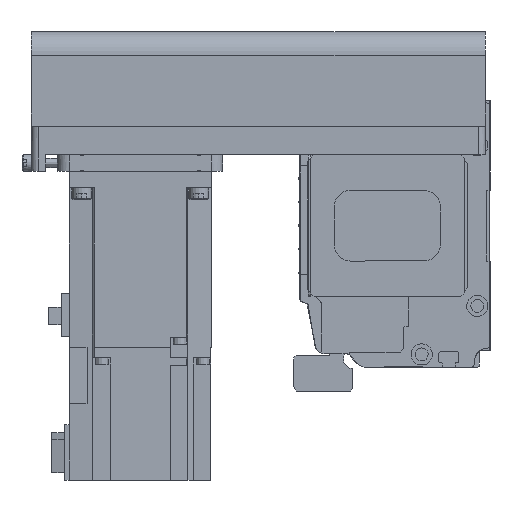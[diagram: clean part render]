
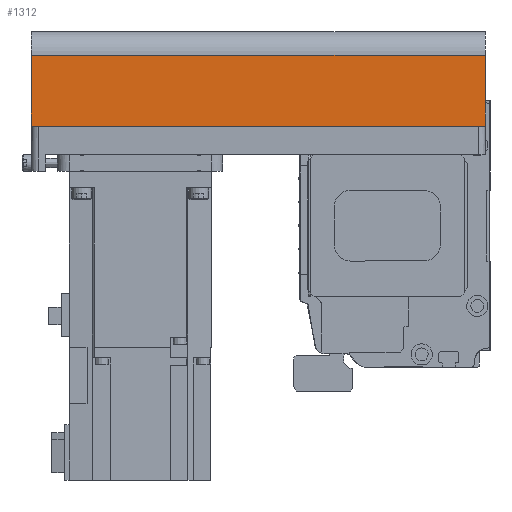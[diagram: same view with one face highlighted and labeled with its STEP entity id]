
A CAD part, left-side view. The second image highlights one B-rep face of the part: STEP entity #1312.
In plain terms, the highlighted planar face has unit normal (-1, 0, 0) as drawn and (0, 1, 0) by its records, which use the part's own axes.
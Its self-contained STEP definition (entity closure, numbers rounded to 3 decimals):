
#1312 = ADVANCED_FACE( '', ( #3176 ), #3177, .T. );
#3176 = FACE_OUTER_BOUND( '', #5784, .T. );
#3177 = PLANE( '', #5785 );
#5784 = EDGE_LOOP( '', ( #9348, #9349, #9350, #9351 ) );
#5785 = AXIS2_PLACEMENT_3D( '', #9352, #9353, #9354 );
#9348 = ORIENTED_EDGE( '', *, *, #15411, .F. );
#9349 = ORIENTED_EDGE( '', *, *, #15029, .F. );
#9350 = ORIENTED_EDGE( '', *, *, #15412, .T. );
#9351 = ORIENTED_EDGE( '', *, *, #15413, .T. );
#9352 = CARTESIAN_POINT( '', ( -192., 40., -42. ) );
#9353 = DIRECTION( '', ( 0., 1., 0. ) );
#9354 = DIRECTION( '', ( 0., 0., 1. ) );
#15029 = EDGE_CURVE( '', #18032, #18030, #18034, .T. );
#15411 = EDGE_CURVE( '', #18030, #17416, #18654, .T. );
#15412 = EDGE_CURVE( '', #18032, #18655, #18656, .T. );
#15413 = EDGE_CURVE( '', #18655, #17416, #18657, .T. );
#17416 = VERTEX_POINT( '', #21357 );
#18030 = VERTEX_POINT( '', #22188 );
#18032 = VERTEX_POINT( '', #22190 );
#18034 = LINE( '', #22192, #22193 );
#18654 = LINE( '', #22988, #22989 );
#18655 = VERTEX_POINT( '', #22990 );
#18656 = LINE( '', #22991, #22992 );
#18657 = LINE( '', #22993, #22994 );
#21357 = CARTESIAN_POINT( '', ( 0., 40., -12.1 ) );
#22188 = CARTESIAN_POINT( '', ( 0., 40., -42. ) );
#22190 = CARTESIAN_POINT( '', ( -192., 40., -42. ) );
#22192 = CARTESIAN_POINT( '', ( -192., 40., -42. ) );
#22193 = VECTOR( '', #26662, 1000. );
#22988 = CARTESIAN_POINT( '', ( 0., 40., -42. ) );
#22989 = VECTOR( '', #27168, 1000. );
#22990 = CARTESIAN_POINT( '', ( -192., 40., -12.1 ) );
#22991 = CARTESIAN_POINT( '', ( -192., 40., -42. ) );
#22992 = VECTOR( '', #27169, 1000. );
#22993 = CARTESIAN_POINT( '', ( -192., 40., -12.1 ) );
#22994 = VECTOR( '', #27170, 1000. );
#26662 = DIRECTION( '', ( 1., 0., 0. ) );
#27168 = DIRECTION( '', ( 0., 0., 1. ) );
#27169 = DIRECTION( '', ( 0., 0., 1. ) );
#27170 = DIRECTION( '', ( 1., 0., 0. ) );
